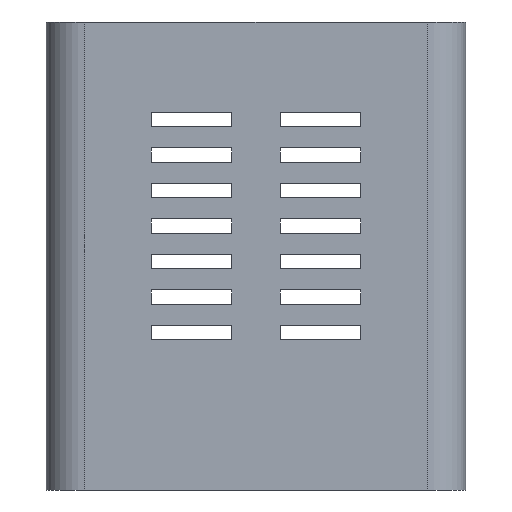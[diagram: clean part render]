
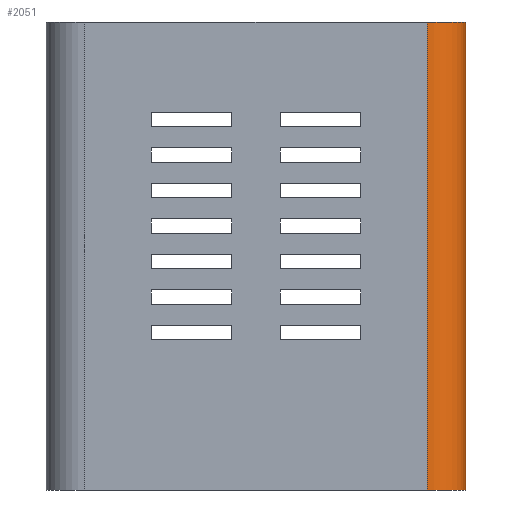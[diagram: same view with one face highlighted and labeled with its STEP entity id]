
A CAD part, left-side view. The second image highlights one B-rep face of the part: STEP entity #2051.
In plain terms, the highlighted cylindrical face has radius 12 mm (diameter 24 mm), a partial arc.
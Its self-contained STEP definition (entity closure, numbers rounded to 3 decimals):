
#22 = VERTEX_POINT('',#23);
#23 = CARTESIAN_POINT('',(-110.,-53.,145.));
#32 = PLANE('',#33);
#33 = AXIS2_PLACEMENT_3D('',#34,#35,#36);
#34 = CARTESIAN_POINT('',(-110.,-65.,0.));
#35 = DIRECTION('',(1.,0.,0.));
#36 = DIRECTION('',(0.,0.,1.));
#44 = PLANE('',#45);
#45 = AXIS2_PLACEMENT_3D('',#46,#47,#48);
#46 = CARTESIAN_POINT('',(-110.,-65.,145.));
#47 = DIRECTION('',(0.,0.,1.));
#48 = DIRECTION('',(1.,0.,0.));
#56 = EDGE_CURVE('',#57,#22,#59,.T.);
#57 = VERTEX_POINT('',#58);
#58 = CARTESIAN_POINT('',(-110.,-53.,0.));
#59 = SURFACE_CURVE('',#60,(#64,#71),.PCURVE_S1.);
#60 = LINE('',#61,#62);
#61 = CARTESIAN_POINT('',(-110.,-53.,0.));
#62 = VECTOR('',#63,1.);
#63 = DIRECTION('',(0.,0.,1.));
#64 = PCURVE('',#32,#65);
#65 = DEFINITIONAL_REPRESENTATION('',(#66),#70);
#66 = LINE('',#67,#68);
#67 = CARTESIAN_POINT('',(0.,-12.));
#68 = VECTOR('',#69,1.);
#69 = DIRECTION('',(1.,0.));
#70 = ( GEOMETRIC_REPRESENTATION_CONTEXT(2) 
PARAMETRIC_REPRESENTATION_CONTEXT() REPRESENTATION_CONTEXT('2D SPACE',''
  ) );
#71 = PCURVE('',#72,#77);
#72 = CYLINDRICAL_SURFACE('',#73,12.);
#73 = AXIS2_PLACEMENT_3D('',#74,#75,#76);
#74 = CARTESIAN_POINT('',(-98.,-53.,0.));
#75 = DIRECTION('',(0.,0.,1.));
#76 = DIRECTION('',(-1.,-0.,0.));
#77 = DEFINITIONAL_REPRESENTATION('',(#78),#82);
#78 = LINE('',#79,#80);
#79 = CARTESIAN_POINT('',(0.,0.));
#80 = VECTOR('',#81,1.);
#81 = DIRECTION('',(0.,1.));
#82 = ( GEOMETRIC_REPRESENTATION_CONTEXT(2) 
PARAMETRIC_REPRESENTATION_CONTEXT() REPRESENTATION_CONTEXT('2D SPACE',''
  ) );
#100 = PLANE('',#101);
#101 = AXIS2_PLACEMENT_3D('',#102,#103,#104);
#102 = CARTESIAN_POINT('',(-110.,-65.,0.));
#103 = DIRECTION('',(0.,0.,1.));
#104 = DIRECTION('',(1.,0.,0.));
#1626 = EDGE_CURVE('',#22,#1627,#1629,.T.);
#1627 = VERTEX_POINT('',#1628);
#1628 = CARTESIAN_POINT('',(-98.,-65.,145.));
#1629 = SURFACE_CURVE('',#1630,(#1635,#1642),.PCURVE_S1.);
#1630 = CIRCLE('',#1631,12.);
#1631 = AXIS2_PLACEMENT_3D('',#1632,#1633,#1634);
#1632 = CARTESIAN_POINT('',(-98.,-53.,145.));
#1633 = DIRECTION('',(0.,0.,1.));
#1634 = DIRECTION('',(0.,-1.,0.));
#1635 = PCURVE('',#44,#1636);
#1636 = DEFINITIONAL_REPRESENTATION('',(#1637),#1641);
#1637 = CIRCLE('',#1638,12.);
#1638 = AXIS2_PLACEMENT_2D('',#1639,#1640);
#1639 = CARTESIAN_POINT('',(12.,12.));
#1640 = DIRECTION('',(0.,-1.));
#1641 = ( GEOMETRIC_REPRESENTATION_CONTEXT(2) 
PARAMETRIC_REPRESENTATION_CONTEXT() REPRESENTATION_CONTEXT('2D SPACE',''
  ) );
#1642 = PCURVE('',#72,#1643);
#1643 = DEFINITIONAL_REPRESENTATION('',(#1644),#1648);
#1644 = LINE('',#1645,#1646);
#1645 = CARTESIAN_POINT('',(-4.712,145.));
#1646 = VECTOR('',#1647,1.);
#1647 = DIRECTION('',(1.,0.));
#1648 = ( GEOMETRIC_REPRESENTATION_CONTEXT(2) 
PARAMETRIC_REPRESENTATION_CONTEXT() REPRESENTATION_CONTEXT('2D SPACE',''
  ) );
#1666 = PLANE('',#1667);
#1667 = AXIS2_PLACEMENT_3D('',#1668,#1669,#1670);
#1668 = CARTESIAN_POINT('',(-110.,-65.,0.));
#1669 = DIRECTION('',(0.,1.,0.));
#1670 = DIRECTION('',(0.,0.,1.));
#2051 = ADVANCED_FACE('',(#2052),#72,.T.);
#2052 = FACE_BOUND('',#2053,.T.);
#2053 = EDGE_LOOP('',(#2054,#2078,#2099,#2100));
#2054 = ORIENTED_EDGE('',*,*,#2055,.T.);
#2055 = EDGE_CURVE('',#57,#2056,#2058,.T.);
#2056 = VERTEX_POINT('',#2057);
#2057 = CARTESIAN_POINT('',(-98.,-65.,0.));
#2058 = SURFACE_CURVE('',#2059,(#2064,#2071),.PCURVE_S1.);
#2059 = CIRCLE('',#2060,12.);
#2060 = AXIS2_PLACEMENT_3D('',#2061,#2062,#2063);
#2061 = CARTESIAN_POINT('',(-98.,-53.,0.));
#2062 = DIRECTION('',(0.,0.,1.));
#2063 = DIRECTION('',(0.,-1.,0.));
#2064 = PCURVE('',#72,#2065);
#2065 = DEFINITIONAL_REPRESENTATION('',(#2066),#2070);
#2066 = LINE('',#2067,#2068);
#2067 = CARTESIAN_POINT('',(-4.712,0.));
#2068 = VECTOR('',#2069,1.);
#2069 = DIRECTION('',(1.,0.));
#2070 = ( GEOMETRIC_REPRESENTATION_CONTEXT(2) 
PARAMETRIC_REPRESENTATION_CONTEXT() REPRESENTATION_CONTEXT('2D SPACE',''
  ) );
#2071 = PCURVE('',#100,#2072);
#2072 = DEFINITIONAL_REPRESENTATION('',(#2073),#2077);
#2073 = CIRCLE('',#2074,12.);
#2074 = AXIS2_PLACEMENT_2D('',#2075,#2076);
#2075 = CARTESIAN_POINT('',(12.,12.));
#2076 = DIRECTION('',(0.,-1.));
#2077 = ( GEOMETRIC_REPRESENTATION_CONTEXT(2) 
PARAMETRIC_REPRESENTATION_CONTEXT() REPRESENTATION_CONTEXT('2D SPACE',''
  ) );
#2078 = ORIENTED_EDGE('',*,*,#2079,.T.);
#2079 = EDGE_CURVE('',#2056,#1627,#2080,.T.);
#2080 = SURFACE_CURVE('',#2081,(#2085,#2092),.PCURVE_S1.);
#2081 = LINE('',#2082,#2083);
#2082 = CARTESIAN_POINT('',(-98.,-65.,0.));
#2083 = VECTOR('',#2084,1.);
#2084 = DIRECTION('',(0.,0.,1.));
#2085 = PCURVE('',#72,#2086);
#2086 = DEFINITIONAL_REPRESENTATION('',(#2087),#2091);
#2087 = LINE('',#2088,#2089);
#2088 = CARTESIAN_POINT('',(1.571,0.));
#2089 = VECTOR('',#2090,1.);
#2090 = DIRECTION('',(0.,1.));
#2091 = ( GEOMETRIC_REPRESENTATION_CONTEXT(2) 
PARAMETRIC_REPRESENTATION_CONTEXT() REPRESENTATION_CONTEXT('2D SPACE',''
  ) );
#2092 = PCURVE('',#1666,#2093);
#2093 = DEFINITIONAL_REPRESENTATION('',(#2094),#2098);
#2094 = LINE('',#2095,#2096);
#2095 = CARTESIAN_POINT('',(0.,12.));
#2096 = VECTOR('',#2097,1.);
#2097 = DIRECTION('',(1.,0.));
#2098 = ( GEOMETRIC_REPRESENTATION_CONTEXT(2) 
PARAMETRIC_REPRESENTATION_CONTEXT() REPRESENTATION_CONTEXT('2D SPACE',''
  ) );
#2099 = ORIENTED_EDGE('',*,*,#1626,.F.);
#2100 = ORIENTED_EDGE('',*,*,#56,.F.);
